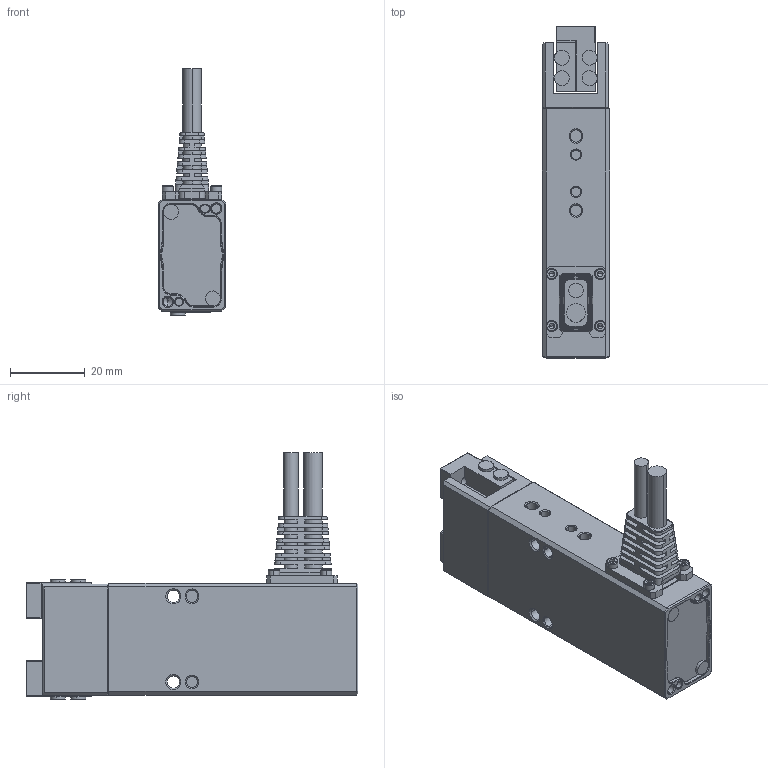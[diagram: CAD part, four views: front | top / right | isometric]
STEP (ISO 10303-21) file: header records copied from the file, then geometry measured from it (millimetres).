
FILE_DESCRIPTION (( 'STEP AP203' ), '1' );
FILE_NAME ('PGEA-【2-10】【15-10】-O-S_简易模型_20250331.STEP', '2025-03-31T12:23:31', ( '' ), ( '' ), 'SwSTEP 2.0', 'SolidWorks 2020', '' );
FILE_SCHEMA (( 'CONFIG_CONTROL_DESIGN' ));
Length unit declared in the file: millimetre
Products named in the file (13): 葩璃 PGEA-15-10厙帣啣; 复件 复件 PGEA-15-10侧出外壳^复件 ______; 复件 M2薄头螺丝-3-4头-0.8厚^复件 _____________0_PGEA-【2-10】【15-10】-O-S_简易模型_20250331; PGEA-【2-10】【15-10】-O-S_简易模型_20250331; 葩璃 15S邧盄厙帣; 复件 _____________0^PGEA-【2-10】【15-10】-O-S_简易模型_20250331; 葩璃 葩璃 PGEA-15-10U璃^葩璃 ______; 复件 M2薄头螺丝-3-4头-0.8厚^复件 ______; 葩璃 葩璃 PGEA-15-10價釱; 葩璃 PGEA-15-10耜堤菁裔; GB_FASTENER_SCREWS_HSHCS M1.6X8-N_GB_FASTENER_SCREWS_HSHCS M1.6X8-N; 葩璃 ______
Assembly tree (24 placements, depth 3):
  PGEA-【2-10】【15-10】-O-S_简易模型_20250331
    葩璃 ______
      葩璃 15S邧盄厙帣
      葩璃 葩璃 PGEA-15-10U璃^葩璃 ______
      复件 复件 PGEA-15-10侧出外壳^复件 ______
      葩璃 PGEA-15-10耜堤菁裔
      复件 M2薄头螺丝-3-4头-0.8厚^复件 ______  x2
      葩璃 PGEA-15-10厙帣啣
      GB_FASTENER_SCREWS_HSHCS M1.6X8-N_GB_FASTENER_SCREWS_HSHCS M1.6X8-N  x4
    复件 _____________0^PGEA-【2-10】【15-10】-O-S_简易模型_20250331
      葩璃 葩璃 PGEA-15-10價釱
      复件 M2薄头螺丝-3-4头-0.8厚^复件 _____________0_PGEA-【2-10】【15-10】-O-S_简易模型_20250331  x4
    复件 _____________0^PGEA-【2-10】【15-10】-O-S_简易模型_20250331
      葩璃 葩璃 PGEA-15-10價釱
      复件 M2薄头螺丝-3-4头-0.8厚^复件 _____________0_PGEA-【2-10】【15-10】-O-S_简易模型_20250331  x4
Bounding box: 18 x 89 x 66.1 mm (x, y, z)
Volume: 46420.7 mm3; surface area: 19158.8 mm2
Topology: 21 solids, 25 shells, 774 faces, 1844 edges, 1146 vertices
Faces by surface type: plane 395, cylinder 251, cone 104, bspline 16, torus 8
Entity records: 19452 total; most frequent: CARTESIAN_POINT 3559, DIRECTION 3017, ORIENTED_EDGE 2932, EDGE_CURVE 1466, AXIS2_PLACEMENT_3D 1041, LINE 935, VECTOR 935, VERTEX_POINT 923
